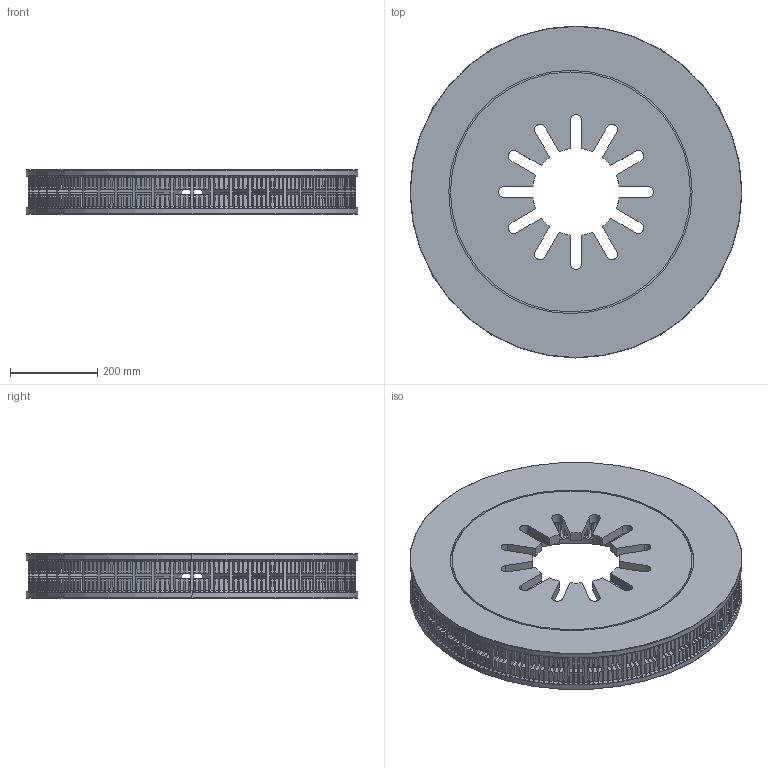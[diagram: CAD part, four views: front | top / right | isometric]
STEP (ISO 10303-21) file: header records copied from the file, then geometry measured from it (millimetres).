
FILE_DESCRIPTION (( 'STEP AP214' ), '1' );
FILE_NAME ('4-07-30.STEP', '2019-10-31T16:15:36', ( '' ), ( '' ), 'SwSTEP 2.0', 'SolidWorks 2019', '' );
FILE_SCHEMA (( 'AUTOMOTIVE_DESIGN' ));
Products named in the file (1): 4-07-30
Bounding box: 762 x 762 x 101.6 mm (x, y, z)
Volume: 21838373.4 mm3; surface area: 5077678.4 mm2
Topology: 1 solids, 1 shells, 3162 faces, 9655 edges, 6395 vertices
Faces by surface type: plane 1598, cylinder 1345, cone 219
Entity records: 117426 total; most frequent: CARTESIAN_POINT 38749, ORIENTED_EDGE 19310, DIRECTION 13756, EDGE_CURVE 9655, VERTEX_POINT 6395, AXIS2_PLACEMENT_3D 5098, VECTOR 3560, LINE 3560
